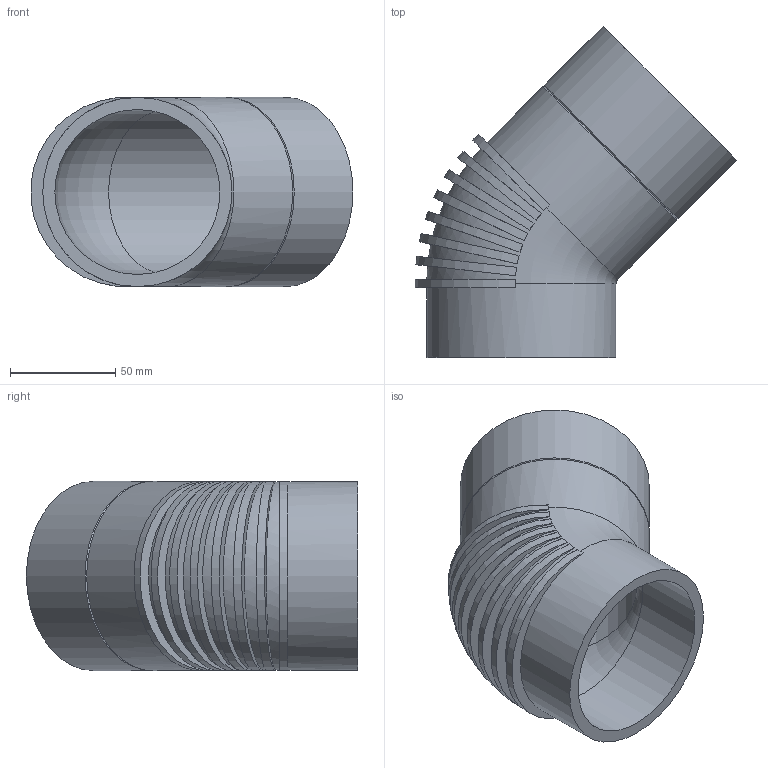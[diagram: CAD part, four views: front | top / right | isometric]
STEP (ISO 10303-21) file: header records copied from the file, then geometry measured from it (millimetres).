
FILE_DESCRIPTION(/* description */ (''),/* implementation_level */ '2;1');
FILE_NAME(/* name */ 'Z:\Geberit\Export\NewStep\Bogen_Ipart\stp\308450.stp',/* time_stamp */ '2014-04-03T16:42:48+02:00',/* author */ ('Marco'),/* organization */ (''),/* preprocessor_version */ 'ST-DEVELOPER v15.2',/* originating_system */ 'Autodesk Inventor 2014',/* authorisation */ '');
FILE_SCHEMA (('AUTOMOTIVE_DESIGN { 1 0 10303 214 3 1 1 }'));
Length unit declared in the file: millimetre
Products named in the file (1): 308450
Bounding box: 153.11 x 157.53 x 90 mm (x, y, z)
Volume: 249293.5 mm3; surface area: 92969.6 mm2
Topology: 1 solids, 1 shells, 35 faces, 96 edges, 63 vertices
Faces by surface type: plane 18, cylinder 13, cone 2, torus 2
Full cylindrical faces by diameter (mm): 78.5 x2, 90 x3
Entity records: 1516 total; most frequent: CARTESIAN_POINT 712, ORIENTED_EDGE 154, DIRECTION 134, EDGE_CURVE 77, AXIS2_PLACEMENT_3D 65, VERTEX_POINT 59, EDGE_LOOP 52, B_SPLINE_CURVE_WITH_KNOTS 44
